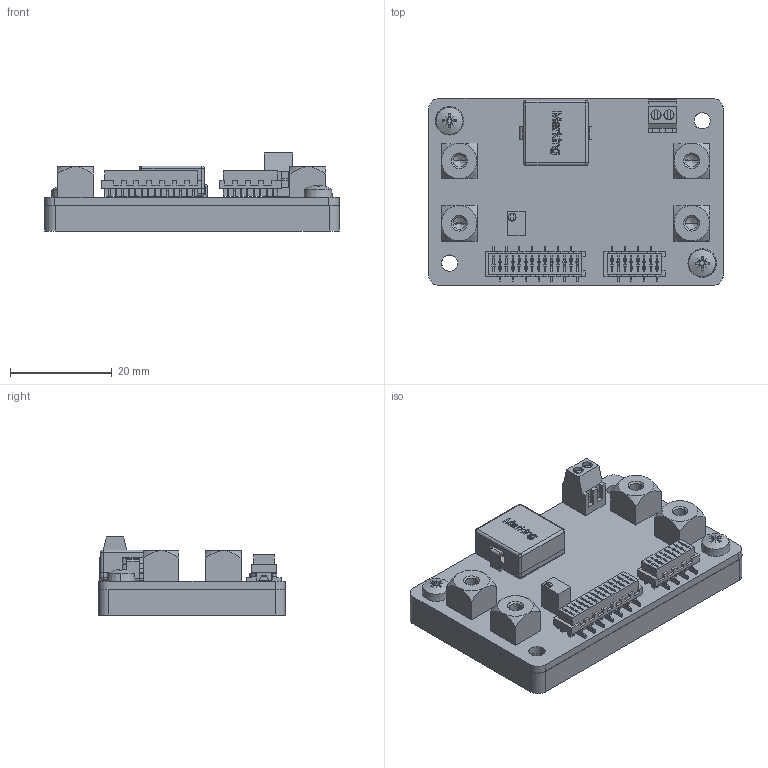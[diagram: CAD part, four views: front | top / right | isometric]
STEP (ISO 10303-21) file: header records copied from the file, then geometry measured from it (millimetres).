
FILE_DESCRIPTION (( 'STEP AP214' ), '1' );
FILE_NAME ('SF6015-30_v2.STEP', '2019-11-29T09:58:26', ( 'Àíäðåé' ), ( '' ), 'SwSTEP 2.0', 'SolidWorks 2016', '' );
FILE_SCHEMA (( 'AUTOMOTIVE_DESIGN' ));
Length unit declared in the file: millimetre
Products named in the file (1): SF6015-30_v2
Bounding box: 57.95 x 36.8 x 15.35 mm (x, y, z)
Volume: 11658.6 mm3; surface area: 16822.8 mm2
Topology: 43 solids, 43 shells, 2765 faces, 7682 edges, 5032 vertices
Faces by surface type: plane 2076, cylinder 608, cone 44, bspline 37
Entity records: 120279 total; most frequent: CARTESIAN_POINT 17593, ORIENTED_EDGE 15332, DIRECTION 14244, EDGE_CURVE 7666, VECTOR 6238, LINE 6238, VERTEX_POINT 5032, AXIS2_PLACEMENT_3D 4003
